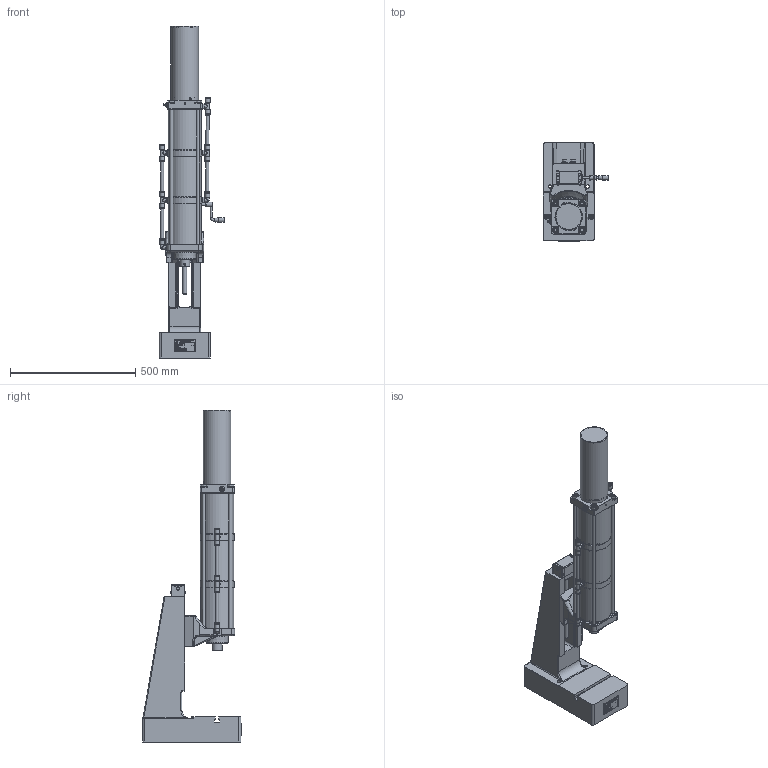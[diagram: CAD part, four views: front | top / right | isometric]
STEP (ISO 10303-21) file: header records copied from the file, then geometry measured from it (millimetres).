
FILE_DESCRIPTION(/* description */ ('Bausatz Ständer T4N HV-OST'),/* implementation_level */ '2;1');
FILE_NAME(/* name */ 'B:\02_CAD_oeffentlich\CAD_3D_oeffentlich_step\Druckluftpresse\DRP_2100_120_130.stp',/* time_stamp */ '2017-08-25T10:25:26+02:00',/* author */ ('Finsterle'),/* organization */ (''),/* preprocessor_version */ 'ST-DEVELOPER v16.1',/* originating_system */ 'Autodesk Inventor 2016',/* authorisation */ '');
FILE_SCHEMA (('AUTOMOTIVE_DESIGN { 1 0 10303 214 3 1 1 }'));
Products named in the file (5): ENG-000753-1_V; ENG-001136_V; HBF-000760; ENG-000755; HBF-001074_V
Assembly tree (5 placements, depth 2):
  HBF-001074_V
    ENG-000753-1_V
    ENG-001136_V
    HBF-000760
    ENG-000755  x2
Bounding box: 259.79 x 393.8 x 1323.83 mm (x, y, z)
Volume: 13881921.7 mm3; surface area: 2067978.6 mm2
Topology: 6 solids, 28 shells, 7816 faces, 20948 edges, 13670 vertices
Faces by surface type: plane 4664, bspline 2114, cylinder 570, cone 247, torus 146, sphere 75
Full cylindrical faces by diameter (mm): 1 x1, 2 x1, 2.4 x3, 2.459 x2, 3 x6, 3.242 x7, 3.5 x2, 3.65 x4, 4 x5, 4.134 x1, 4.2 x2, 4.5 x4, 4.917 x6, 5 x3, 6.2 x4, 6.5 x2, 6.647 x1, 8 x5, 8.4 x1, 8.5 x2, 9 x4, 10 x3, 10.02 x1, 10.5 x4, 11.5 x8, 11.8 x2, 12 x24, 12.5 x4, 13 x20, 13.5 x4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
Entity records: 263333 total; most frequent: CARTESIAN_POINT 77630, ORIENTED_EDGE 40332, DIRECTION 28689, EDGE_CURVE 20141, LINE 13957, VECTOR 13957, VERTEX_POINT 13506, EDGE_LOOP 9029
